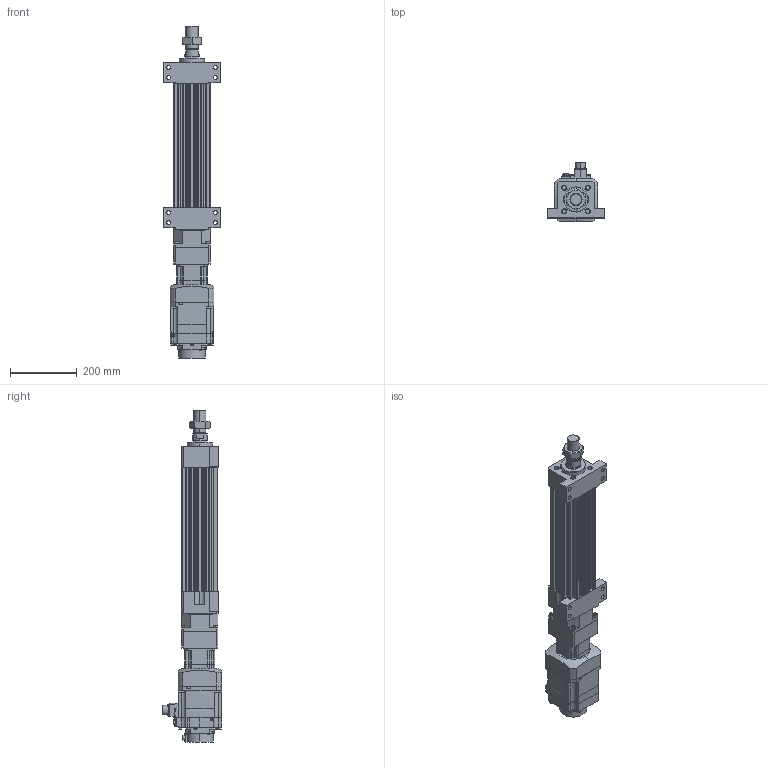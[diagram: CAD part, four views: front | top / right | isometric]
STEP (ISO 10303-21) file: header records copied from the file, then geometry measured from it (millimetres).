
FILE_DESCRIPTION (( 'STEP AP203' ), '1' );
FILE_NAME ('HES110NS(HS)-S200-W010G00-M-FFB.STEP', '2026-06-10T05:56:32', ( 'tms' ), ( '' ), 'SwSTEP 2.0', 'SolidWorks 2013', '' );
FILE_SCHEMA (( 'CONFIG_CONTROL_DESIGN' ));
Length unit declared in the file: millimetre
Products named in the file (8): HG-SR102B; AB0902; M36X1.5P; HES110-FFB-200; HES110NS(HS)-S200-W010G00-M-FFB; HES110-M-ROD-200; AB0901; HES110-S-G90
Assembly tree (7 placements, depth 2):
  HES110NS(HS)-S200-W010G00-M-FFB
    HES110-FFB-200
    HES110-M-ROD-200
    M36X1.5P
    HES110-S-G90
    AB0901
    AB0902
    HG-SR102B
Bounding box: 170 x 177.49 x 993 mm (x, y, z)
Volume: 6839254.6 mm3; surface area: 853752 mm2
Topology: 5 solids, 12 shells, 1194 faces, 3036 edges, 1981 vertices
Faces by surface type: plane 560, cylinder 552, cone 68, bspline 10, torus 4
Entity records: 38266 total; most frequent: CARTESIAN_POINT 7539, DIRECTION 6557, ORIENTED_EDGE 6044, EDGE_CURVE 3032, AXIS2_PLACEMENT_3D 2423, VERTEX_POINT 1981, LINE 1711, VECTOR 1711
